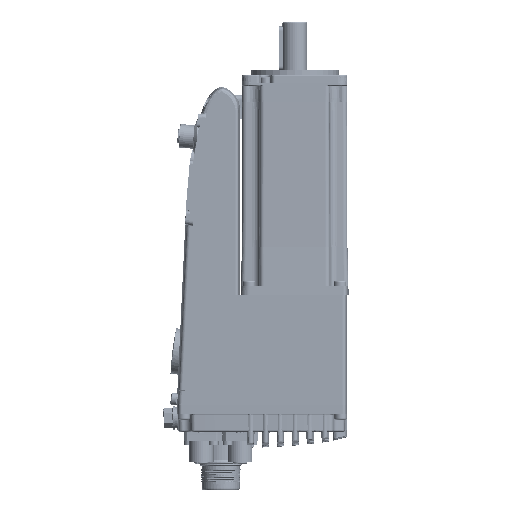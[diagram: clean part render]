
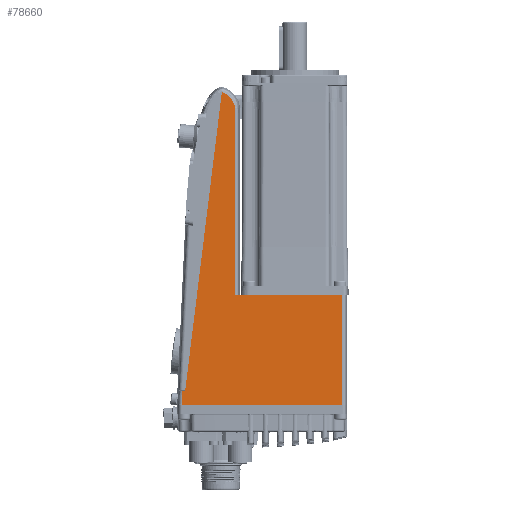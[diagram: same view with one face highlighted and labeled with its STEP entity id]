
A CAD part, left-side view. The second image highlights one B-rep face of the part: STEP entity #78660.
In plain terms, the highlighted planar face has unit normal (-1, 0, 0).
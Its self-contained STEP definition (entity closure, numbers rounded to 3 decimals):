
#7420=B_SPLINE_CURVE_WITH_KNOTS('',3,(#138906,#138907,#138908,#138909,#138910,
#138911,#138912,#138913,#138914,#138915,#138916,#138917,#138918,#138919,
#138920),.UNSPECIFIED.,.F.,.F.,(4,1,1,1,1,1,1,1,1,1,1,1,4),(0.741,
0.75,0.751,0.781,0.813,0.844,0.854,0.875,0.879,
0.906,0.938,0.969,1.),.UNSPECIFIED.);
#7421=B_SPLINE_CURVE_WITH_KNOTS('',3,(#138926,#138927,#138928,#138929),
 .UNSPECIFIED.,.F.,.F.,(4,4),(0.,1.),
 .UNSPECIFIED.);
#19280=ORIENTED_EDGE('',*,*,#30980,.F.);
#19281=ORIENTED_EDGE('',*,*,#30864,.T.);
#19282=ORIENTED_EDGE('',*,*,#30981,.T.);
#19283=ORIENTED_EDGE('',*,*,#30982,.F.);
#19284=ORIENTED_EDGE('',*,*,#30826,.F.);
#19285=ORIENTED_EDGE('',*,*,#30983,.T.);
#19286=ORIENTED_EDGE('',*,*,#30902,.F.);
#19287=ORIENTED_EDGE('',*,*,#30984,.T.);
#30826=EDGE_CURVE('',#37574,#37575,#41608,.T.);
#30864=EDGE_CURVE('',#37607,#37606,#41635,.T.);
#30902=EDGE_CURVE('',#37638,#37639,#41659,.T.);
#30980=EDGE_CURVE('',#37607,#37691,#7420,.T.);
#30981=EDGE_CURVE('',#37606,#37692,#41694,.T.);
#30982=EDGE_CURVE('',#37575,#37692,#41695,.F.);
#30983=EDGE_CURVE('',#37574,#37639,#41696,.T.);
#30984=EDGE_CURVE('',#37638,#37691,#7421,.T.);
#37574=VERTEX_POINT('',#137927);
#37575=VERTEX_POINT('',#137929);
#37606=VERTEX_POINT('',#138008);
#37607=VERTEX_POINT('',#138010);
#37638=VERTEX_POINT('',#138099);
#37639=VERTEX_POINT('',#138101);
#37691=VERTEX_POINT('',#138921);
#37692=VERTEX_POINT('',#138923);
#41608=LINE('',#137928,#45330);
#41635=LINE('',#138009,#45357);
#41659=LINE('',#138100,#45381);
#41694=LINE('',#138922,#45416);
#41695=LINE('',#138924,#45417);
#41696=LINE('',#138925,#45418);
#45330=VECTOR('',#97992,1000.);
#45357=VECTOR('',#98047,1000.);
#45381=VECTOR('',#98089,1000.);
#45416=VECTOR('',#98190,1000.);
#45417=VECTOR('',#98191,1000.);
#45418=VECTOR('',#98192,1000.);
#50140=EDGE_LOOP('',(#19280,#19281,#19282,#19283,#19284,#19285,#19286,#19287));
#54883=FACE_BOUND('',#50140,.T.);
#57062=PLANE('',#84746);
#78660=ADVANCED_FACE('',(#54883),#57062,.T.);
#84746=AXIS2_PLACEMENT_3D('',#138905,#98188,#98189);
#97992=DIRECTION('',(0.,1.,0.));
#98047=DIRECTION('',(0.,0.122,-0.993));
#98089=DIRECTION('',(0.,-1.,0.));
#98188=DIRECTION('',(-1.,0.,0.));
#98189=DIRECTION('',(0.,1.,0.));
#98190=DIRECTION('',(0.,1.,-0.009));
#98191=DIRECTION('',(0.,0.047,-0.999));
#98192=DIRECTION('',(0.,0.,1.));
#137927=CARTESIAN_POINT('',(-30.,-27.131,-62.8));
#137928=CARTESIAN_POINT('',(-30.,64.179,-62.8));
#137929=CARTESIAN_POINT('',(-30.,64.131,-62.8));
#138008=CARTESIAN_POINT('',(-30.,62.175,-54.46));
#138009=CARTESIAN_POINT('',(-30.,63.335,-63.904));
#138010=CARTESIAN_POINT('',(-30.,41.351,115.14));
#138099=CARTESIAN_POINT('',(-30.,33.84,0.));
#138100=CARTESIAN_POINT('',(-30.,33.865,0.));
#138101=CARTESIAN_POINT('',(-30.,-27.131,0.));
#138905=CARTESIAN_POINT('',(-30.,64.179,-63.8));
#138906=CARTESIAN_POINT('',(-30.,41.351,115.14));
#138907=CARTESIAN_POINT('',(-30.,41.278,115.139));
#138908=CARTESIAN_POINT('',(-30.,41.199,115.131));
#138909=CARTESIAN_POINT('',(-30.,40.85,115.076));
#138910=CARTESIAN_POINT('',(-30.,40.176,114.876));
#138911=CARTESIAN_POINT('',(-30.,38.714,114.021));
#138912=CARTESIAN_POINT('',(-30.,37.598,113.083));
#138913=CARTESIAN_POINT('',(-30.,36.76,112.255));
#138914=CARTESIAN_POINT('',(-30.,36.354,111.8));
#138915=CARTESIAN_POINT('',(-30.,35.788,111.093));
#138916=CARTESIAN_POINT('',(-30.,35.161,110.194));
#138917=CARTESIAN_POINT('',(-30.,34.464,108.767));
#138918=CARTESIAN_POINT('',(-30.,33.974,107.039));
#138919=CARTESIAN_POINT('',(-30.,33.865,105.634));
#138920=CARTESIAN_POINT('',(-30.,33.865,104.865));
#138921=CARTESIAN_POINT('',(-30.,33.865,104.865));
#138922=CARTESIAN_POINT('',(-30.,64.26,-54.478));
#138923=CARTESIAN_POINT('',(-30.,63.739,-54.473));
#138924=CARTESIAN_POINT('',(-30.,64.053,-61.15));
#138925=CARTESIAN_POINT('',(-30.,-27.131,-62.8));
#138926=CARTESIAN_POINT('',(-30.,33.865,0.));
#138927=CARTESIAN_POINT('',(-30.,33.865,34.955));
#138928=CARTESIAN_POINT('',(-30.,33.865,69.91));
#138929=CARTESIAN_POINT('',(-30.,33.865,104.865));
